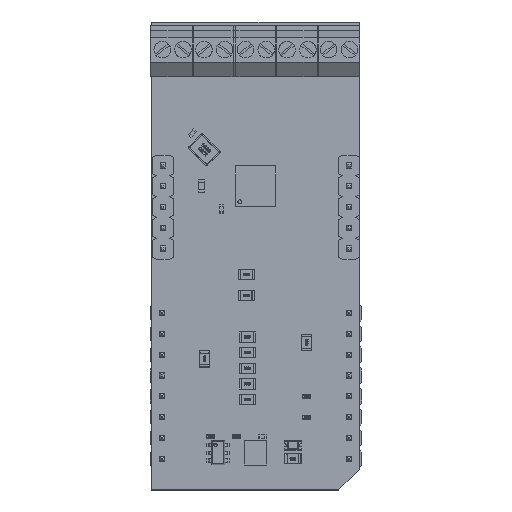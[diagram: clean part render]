
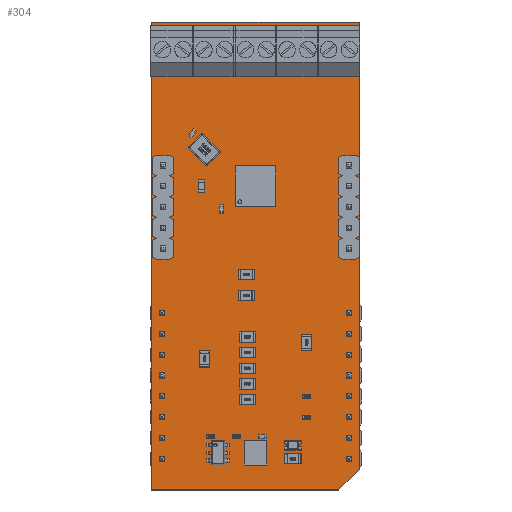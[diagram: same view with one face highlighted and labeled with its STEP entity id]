
A CAD part, top view. The second image highlights one B-rep face of the part: STEP entity #304.
In plain terms, the highlighted planar face has unit normal (0, 0, 1).
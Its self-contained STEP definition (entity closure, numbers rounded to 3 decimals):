
#143 = VERTEX_POINT('',#144);
#144 = CARTESIAN_POINT('',(-1.27,-3.81,0.));
#150 = EDGE_CURVE('',#143,#151,#153,.T.);
#151 = VERTEX_POINT('',#152);
#152 = CARTESIAN_POINT('',(-1.27,53.34,0.));
#153 = LINE('',#154,#155);
#154 = CARTESIAN_POINT('',(-1.27,-3.81,0.));
#155 = VECTOR('',#156,1.);
#156 = DIRECTION('',(0.,1.,0.));
#181 = EDGE_CURVE('',#151,#182,#184,.T.);
#182 = VERTEX_POINT('',#183);
#183 = CARTESIAN_POINT('',(24.13,53.34,0.));
#184 = LINE('',#185,#186);
#185 = CARTESIAN_POINT('',(-1.27,53.34,0.));
#186 = VECTOR('',#187,1.);
#187 = DIRECTION('',(1.,0.,0.));
#212 = EDGE_CURVE('',#182,#213,#215,.T.);
#213 = VERTEX_POINT('',#214);
#214 = CARTESIAN_POINT('',(24.13,-1.27,0.));
#215 = LINE('',#216,#217);
#216 = CARTESIAN_POINT('',(24.13,53.34,0.));
#217 = VECTOR('',#218,1.);
#218 = DIRECTION('',(0.,-1.,0.));
#243 = EDGE_CURVE('',#213,#244,#246,.T.);
#244 = VERTEX_POINT('',#245);
#245 = CARTESIAN_POINT('',(21.59,-3.81,0.));
#246 = LINE('',#247,#248);
#247 = CARTESIAN_POINT('',(24.13,-1.27,0.));
#248 = VECTOR('',#249,1.);
#249 = DIRECTION('',(-0.707,-0.707,0.));
#274 = EDGE_CURVE('',#244,#143,#275,.T.);
#275 = LINE('',#276,#277);
#276 = CARTESIAN_POINT('',(21.59,-3.81,0.));
#277 = VECTOR('',#278,1.);
#278 = DIRECTION('',(-1.,0.,0.));
#304 = ADVANCED_FACE('',(#305),#312,.T.);
#305 = FACE_BOUND('',#306,.F.);
#306 = EDGE_LOOP('',(#307,#308,#309,#310,#311));
#307 = ORIENTED_EDGE('',*,*,#150,.T.);
#308 = ORIENTED_EDGE('',*,*,#181,.T.);
#309 = ORIENTED_EDGE('',*,*,#212,.T.);
#310 = ORIENTED_EDGE('',*,*,#243,.T.);
#311 = ORIENTED_EDGE('',*,*,#274,.T.);
#312 = PLANE('',#313);
#313 = AXIS2_PLACEMENT_3D('',#314,#315,#316);
#314 = CARTESIAN_POINT('',(-1.27,-3.81,0.));
#315 = DIRECTION('',(0.,0.,1.));
#316 = DIRECTION('',(1.,0.,0.));
